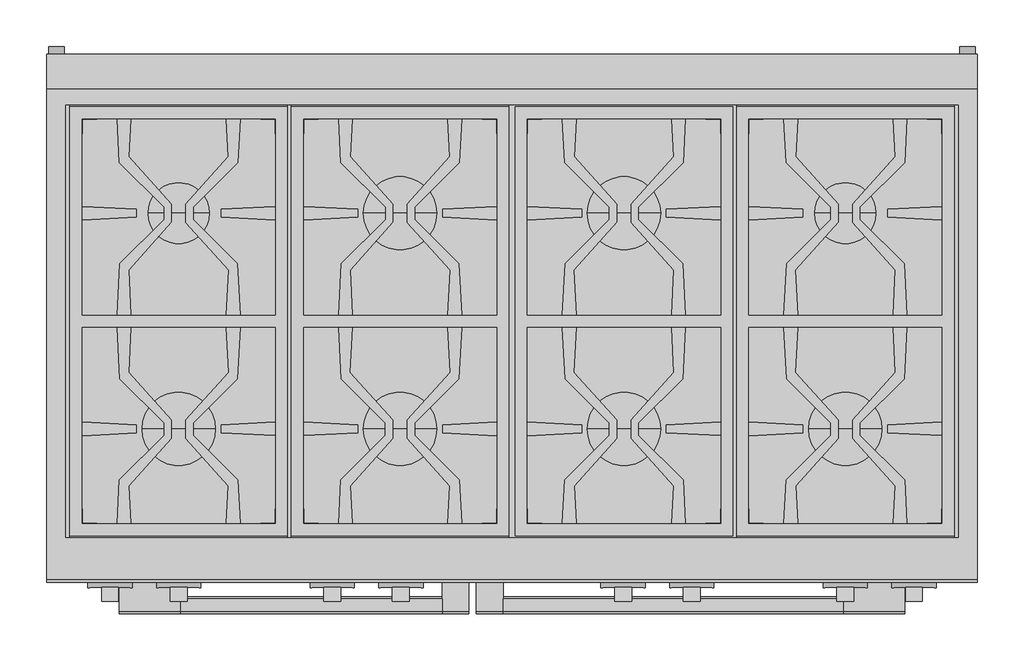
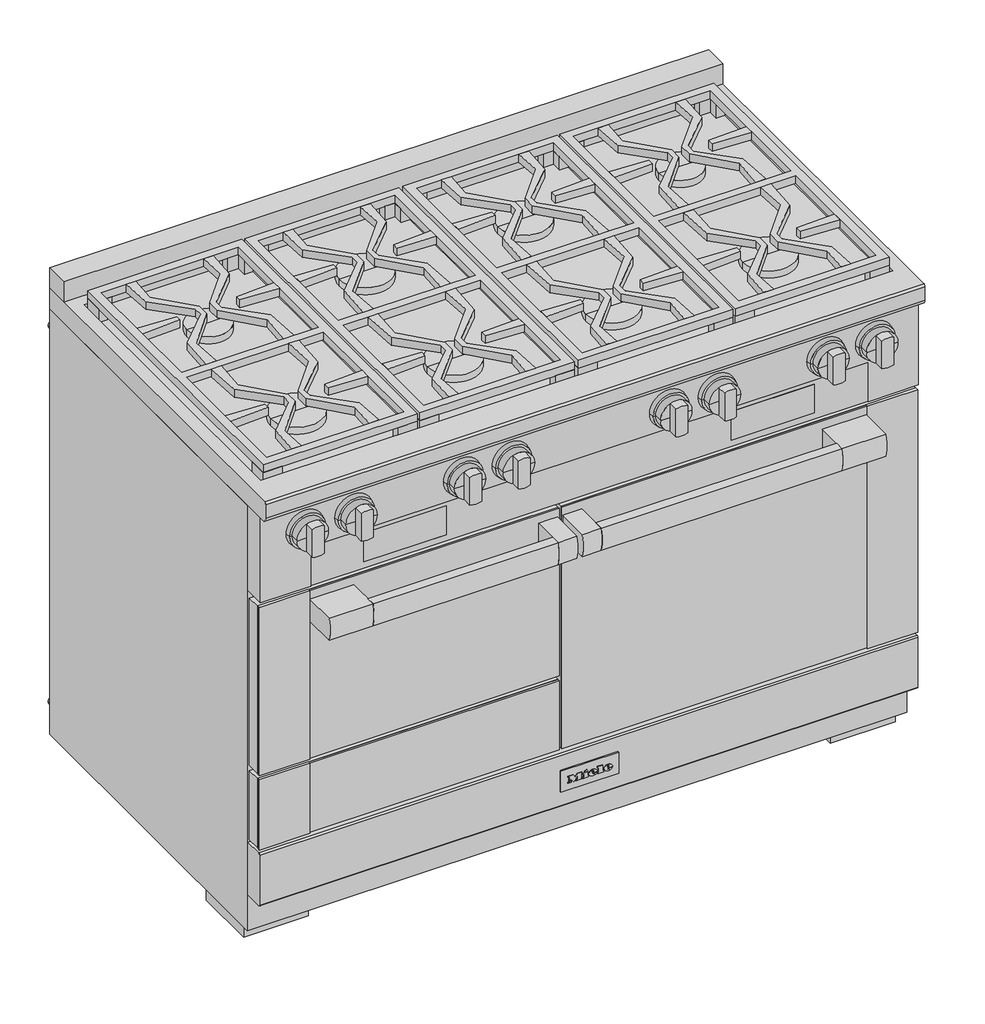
# Not in any storey: 1 proxy.
"""IFC4 building model written with IfcOpenShell, lengths in millimetres."""

from ifc_helpers import new_model, si_unit, origin, place, context, project, spatial, transform, mapped, element, save
from components import specialty_equipment_d0c5894f, specialty_equipment_6386a448, specialty_equipment_bac1f9ac

model = new_model("IFC4")

# Units and contexts
model_context = context("Model", 3, world=origin())
ifc_project = project(units=[si_unit("LENGTHUNIT", "METRE", prefix="MILLI")], contexts=[model_context])

# Site, building
site = spatial("IfcSite", under=ifc_project)
building = spatial("IfcBuilding", under=site)

# Proxy
placement = place(None, origin())
specialty_equipment_shape = specialty_equipment_d0c5894f(model_context)
specialty_equipment_2_shape = specialty_equipment_6386a448(model_context)
specialty_equipment_3_shape = specialty_equipment_bac1f9ac(model_context)
element("IfcBuildingElementProxy", 1, Name="11791680_USA_HR1954-3LP_EDST-CLS : 25195482_USA_11791680_HR1954-3LP_EDST-CLS", ObjectType="11791680_USA_HR1954-3LP_EDST-CLS : 25195482_USA_11791680_HR1954-3LP_EDST-CLS", at=placement, inside=building, context=model_context, shape_type="MappedRepresentation", body=[
    mapped(specialty_equipment_shape, transform((0.0, 0.0, 0.0), x_axis=(1.0, 0.0, 0.0), y_axis=(0.0, 1.0, 0.0), z_axis=(0.0, 0.0, 1.0))),
    mapped(specialty_equipment_2_shape, transform((0.0, 0.0, 0.0), x_axis=(1.0, 0.0, 0.0), y_axis=(0.0, 1.0, 0.0), z_axis=(0.0, 0.0, 1.0))),
    mapped(specialty_equipment_3_shape, transform((0.0, 0.0, 0.0), x_axis=(1.0, 0.0, 0.0), y_axis=(0.0, 1.0, 0.0), z_axis=(0.0, 0.0, 1.0))),
])

save(model, "model.ifc")
